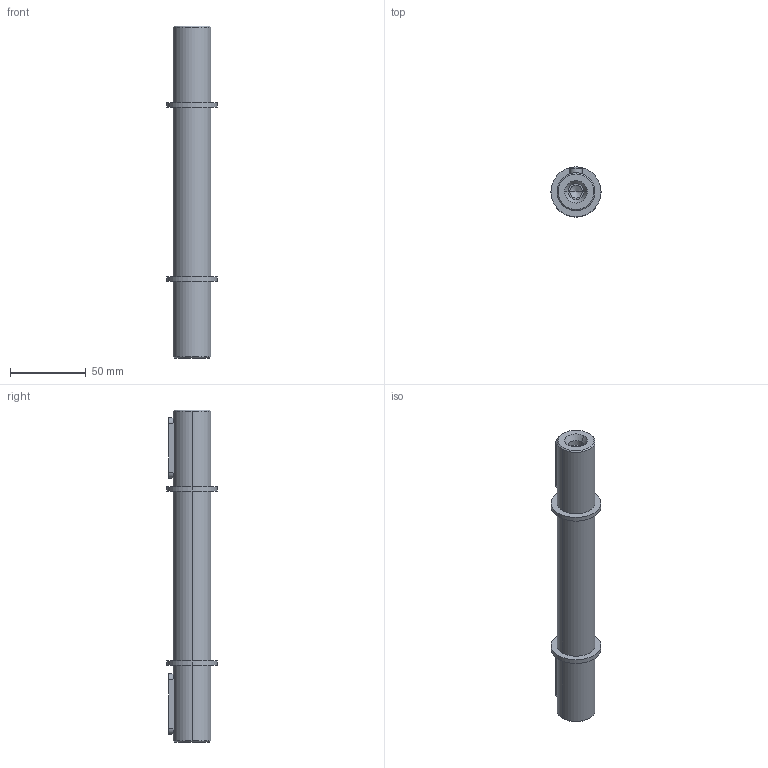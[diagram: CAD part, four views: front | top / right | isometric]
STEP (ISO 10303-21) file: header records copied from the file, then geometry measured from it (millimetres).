
FILE_DESCRIPTION(/* description */ (''),/* implementation_level */ '2;1');
FILE_NAME(/* name */ '5_ALBERO LENTO BISPORGENTE BA52',/* time_stamp */ '2025-10-22T11:46:22+02:00',/* author */ (''),/* organization */ (''),/* preprocessor_version */ 'ST-DEVELOPER v19.2',/* originating_system */ 'Rhino 8.23',/* authorisation */ '');
FILE_SCHEMA (('CONFIG_CONTROL_DESIGN'));
Length unit declared in the file: millimetre
Products named in the file (2): Document; A52-B2580501325
Bounding box: 33 x 33 x 219 mm (x, y, z)
Volume: 107435.6 mm3; surface area: 21960.4 mm2
Topology: 1 solids, 1 shells, 48 faces, 102 edges, 62 vertices
Faces by surface type: cylinder 22, plane 14, bspline 12
Entity records: 1592 total; most frequent: CARTESIAN_POINT 490, ORIENTED_EDGE 196, DIRECTION 140, EDGE_CURVE 98, AXIS2_PLACEMENT_3D 88, VERTEX_POINT 62, EDGE_LOOP 58, B_SPLINE_CURVE_WITH_KNOTS 50
